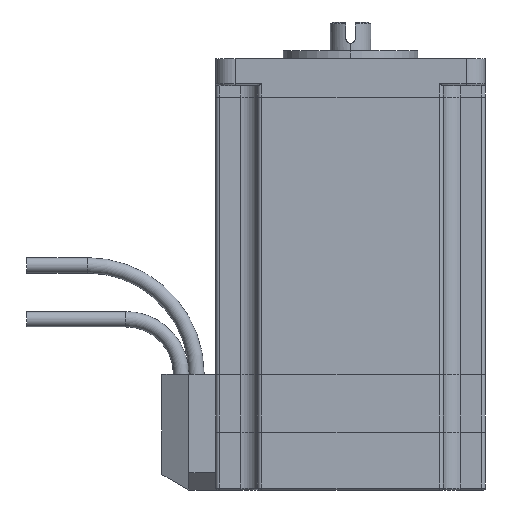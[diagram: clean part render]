
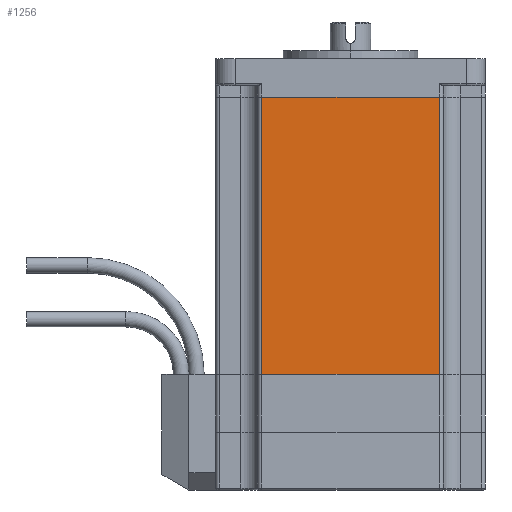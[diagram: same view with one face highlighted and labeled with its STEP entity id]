
A CAD part, left-side view. The second image highlights one B-rep face of the part: STEP entity #1256.
In plain terms, the highlighted planar face has unit normal (-1, 0, 0).
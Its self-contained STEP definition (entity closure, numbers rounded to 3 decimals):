
#21 = VERTEX_POINT ( 'NONE', #4908 ) ;
#98 = PLANE ( 'NONE',  #6942 ) ;
#232 = ORIENTED_EDGE ( 'NONE', *, *, #1059, .T. ) ;
#970 = CARTESIAN_POINT ( 'NONE',  ( -35., -30., -10. ) ) ;
#1059 = EDGE_CURVE ( 'NONE', #4676, #3376, #2768, .T. ) ;
#1256 = ADVANCED_FACE ( 'NONE', ( #1459 ), #98, .T. ) ;
#1259 = VECTOR ( 'NONE', #4770, 1000. ) ;
#1459 = FACE_OUTER_BOUND ( 'NONE', #6274, .T. ) ;
#1985 = CARTESIAN_POINT ( 'NONE',  ( -35., -23.1, -82. ) ) ;
#2296 = CARTESIAN_POINT ( 'NONE',  ( -35., -30., -82. ) ) ;
#2333 = LINE ( 'NONE', #2296, #1259 ) ;
#2345 = EDGE_CURVE ( 'NONE', #21, #3376, #6379, .T. ) ;
#2514 = CARTESIAN_POINT ( 'NONE',  ( -35., -30., -112. ) ) ;
#2728 = LINE ( 'NONE', #5142, #5233 ) ;
#2768 = LINE ( 'NONE', #6393, #3026 ) ;
#2834 = DIRECTION ( 'NONE',  ( 0., -1., 0. ) ) ;
#3026 = VECTOR ( 'NONE', #4041, 1000. ) ;
#3376 = VERTEX_POINT ( 'NONE', #7016 ) ;
#3456 = DIRECTION ( 'NONE',  ( 0., 0., -1. ) ) ;
#3504 = ORIENTED_EDGE ( 'NONE', *, *, #2345, .F. ) ;
#4041 = DIRECTION ( 'NONE',  ( 0., 0., 1. ) ) ;
#4326 = VECTOR ( 'NONE', #2834, 1000. ) ;
#4576 = ORIENTED_EDGE ( 'NONE', *, *, #6728, .T. ) ;
#4676 = VERTEX_POINT ( 'NONE', #1985 ) ;
#4770 = DIRECTION ( 'NONE',  ( 0., 1., 0. ) ) ;
#4908 = CARTESIAN_POINT ( 'NONE',  ( -35., 23.1, -10. ) ) ;
#4910 = EDGE_CURVE ( 'NONE', #4676, #7177, #2333, .T. ) ;
#4982 = DIRECTION ( 'NONE',  ( 0., -1., 0. ) ) ;
#5142 = CARTESIAN_POINT ( 'NONE',  ( -35., 23.1, -112. ) ) ;
#5233 = VECTOR ( 'NONE', #3456, 1000. ) ;
#5485 = ORIENTED_EDGE ( 'NONE', *, *, #4910, .F. ) ;
#6153 = DIRECTION ( 'NONE',  ( -1., 0., 0. ) ) ;
#6274 = EDGE_LOOP ( 'NONE', ( #5485, #232, #3504, #4576 ) ) ;
#6379 = LINE ( 'NONE', #970, #4326 ) ;
#6393 = CARTESIAN_POINT ( 'NONE',  ( -35., -23.1, -7. ) ) ;
#6728 = EDGE_CURVE ( 'NONE', #21, #7177, #2728, .T. ) ;
#6766 = CARTESIAN_POINT ( 'NONE',  ( -35., 23.1, -82. ) ) ;
#6942 = AXIS2_PLACEMENT_3D ( 'NONE', #2514, #6153, #4982 ) ;
#7016 = CARTESIAN_POINT ( 'NONE',  ( -35., -23.1, -10. ) ) ;
#7177 = VERTEX_POINT ( 'NONE', #6766 ) ;
